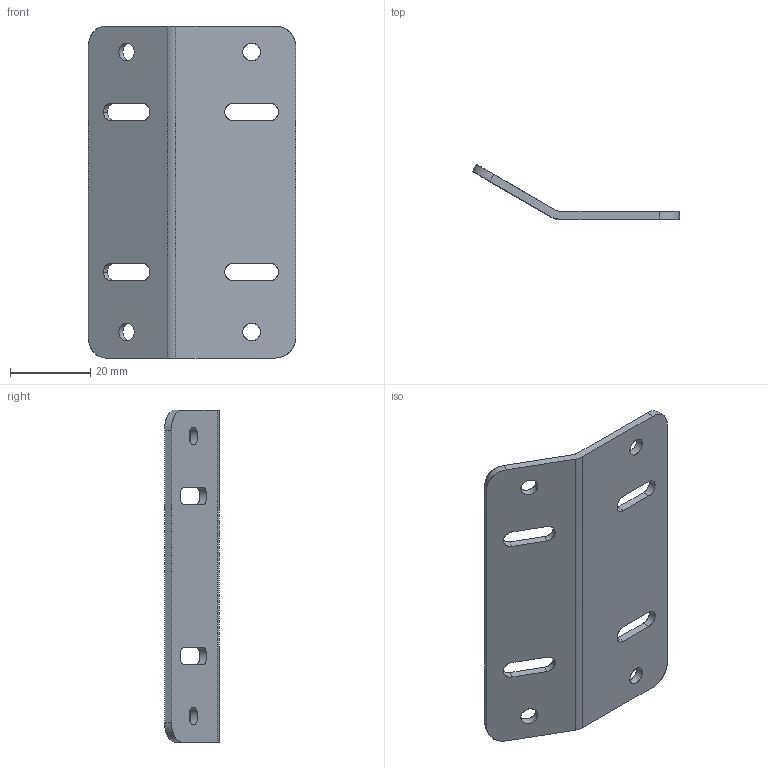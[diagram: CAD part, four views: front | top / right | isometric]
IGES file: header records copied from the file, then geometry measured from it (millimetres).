
Start section: C
Global section: file name: D0001015983-Befestigungswinkel_OX100_V30.igs; native system: By Siemens PLM Incorporated; preprocessor: XPlus GENERIC/IGES 23.0.61; author: Author; organization: Title; date: 20220505.142618; units: millimetre
Bounding box: 51.78 x 13.73 x 83 mm (x, y, z)
Surface area: 9329.1 mm2 (no closed solid volume)
Topology: 0 solids, 0 shells, 36 faces, 220 edges, 220 vertices
Faces by surface type: bspline 36
